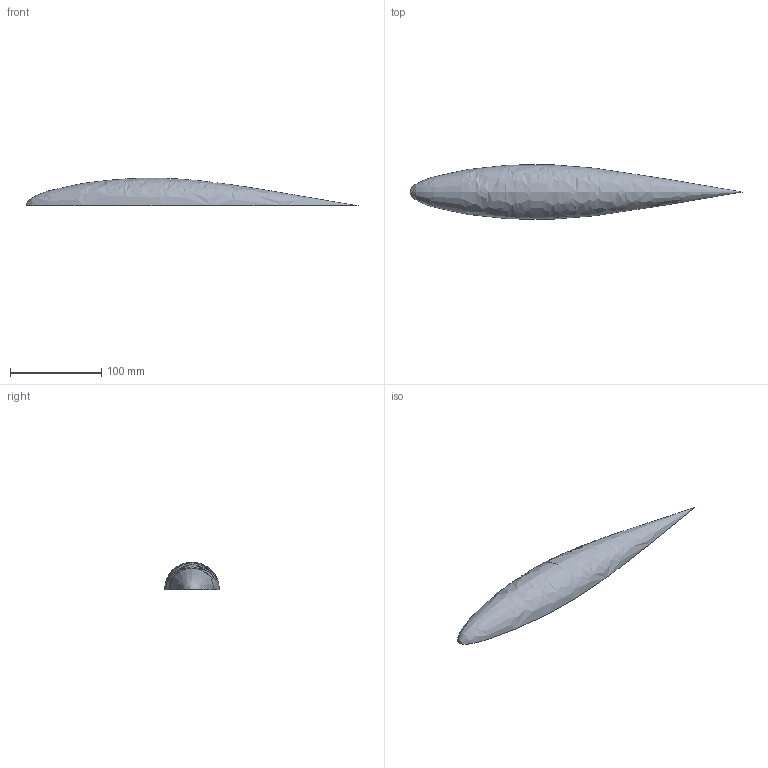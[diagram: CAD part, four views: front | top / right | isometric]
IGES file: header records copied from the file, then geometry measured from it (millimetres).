
Start section: This file was written from GridTool (For more information see ht tp://geolab.larc.nasa.gov/GridTool) or contact GridTool author: Jamshid Samareh (j.a.samareh@larc.nasa.gov)
Global section: file name: /usr2/people/rosen/nets_pact/mx12/bulbnew.igs; native system: Jamshid_system(j.a.samareh@larc.nasa.gov); preprocessor: V.0.0.0.0.0; author: Jamshid_Samareh; organization: CSC; date: 970923.195750; units: inch
Bounding box: 364.08 x 60.35 x 30.38 mm (x, y, z)
Surface area: 23128.8 mm2 (no closed solid volume)
Topology: 0 solids, 0 shells, 1 faces, 4 edges, 2 vertices
Faces by surface type: bspline 1
